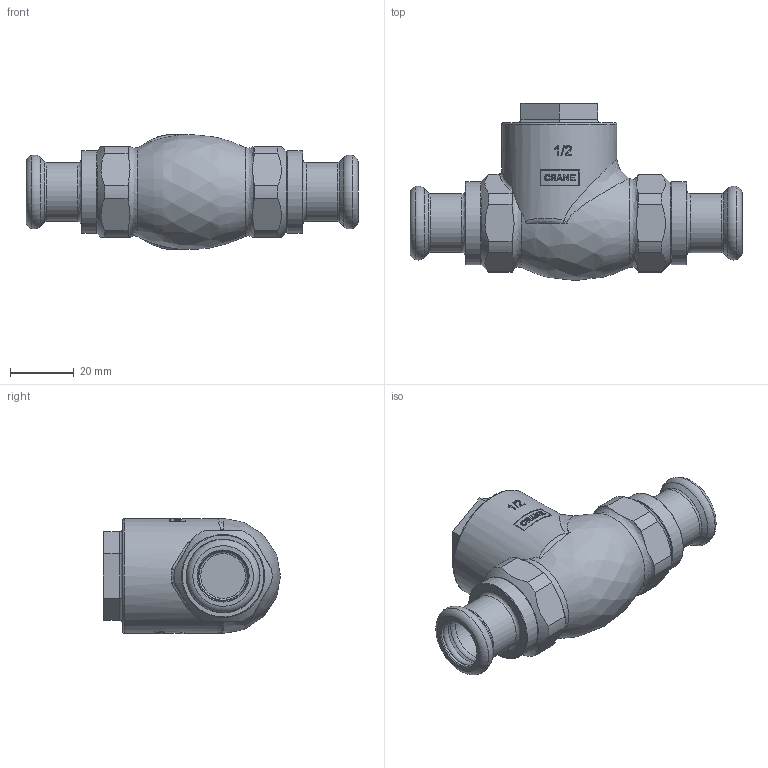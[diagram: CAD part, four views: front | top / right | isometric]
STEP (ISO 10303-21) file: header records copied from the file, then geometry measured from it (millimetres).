
FILE_DESCRIPTION((''),'2;1');
FILE_NAME('P:\Fastrack\53972_CRANE 3D\Push Fit\145840-15mm.stp','2011-08-22T11:09:16',('btaylor'),(''),'Autodesk Inventor 2008','Autodesk Inventor 2008','');
FILE_SCHEMA(('AUTOMOTIVE_DESIGN { 1 0 10303 214 1 1 1 1 }'));
Length unit declared in the file: millimetre
Products named in the file (1): 145840-15mm
Bounding box: 104.1 x 55.5 x 36.2 mm (x, y, z)
Volume: 61055 mm3; surface area: 21344.1 mm2
Topology: 1 solids, 4 shells, 448 faces, 1210 edges, 795 vertices
Faces by surface type: bspline 229, plane 126, cylinder 54, cone 30, torus 9
Full cylindrical faces by diameter (mm): 15.2 x2, 15.75 x2, 18.45 x2, 26 x2, 36 x1
Entity records: 57204 total; most frequent: CARTESIAN_POINT 47850, ORIENTED_EDGE 2292, DIRECTION 1201, EDGE_CURVE 1146, VERTEX_POINT 783, B_SPLINE_CURVE_WITH_KNOTS 533, EDGE_LOOP 523, FACE_OUTER_BOUND 447
